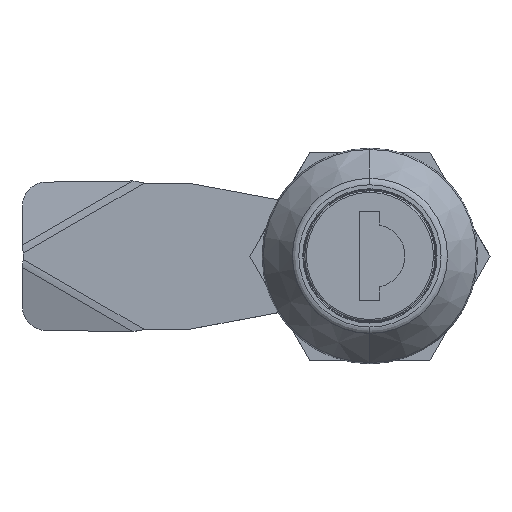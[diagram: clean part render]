
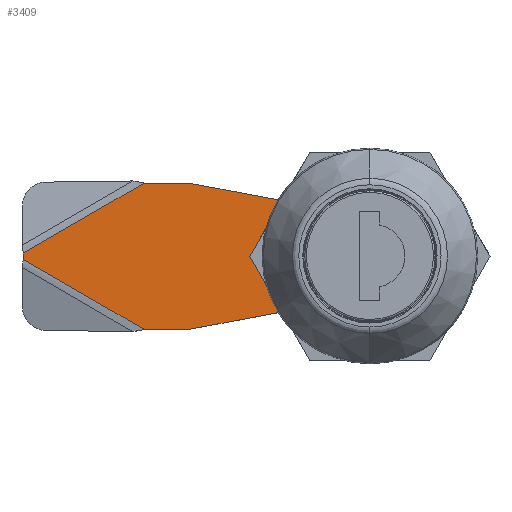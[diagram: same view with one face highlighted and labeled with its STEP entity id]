
A CAD part, top view. The second image highlights one B-rep face of the part: STEP entity #3409.
In plain terms, the highlighted planar face has unit normal (0, 0, 1).
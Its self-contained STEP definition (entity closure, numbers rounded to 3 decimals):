
#151 = VECTOR ( 'NONE', #7696, 1000. ) ;
#194 = PLANE ( 'NONE',  #350 ) ;
#231 = CARTESIAN_POINT ( 'NONE',  ( 45., 6.5, 3. ) ) ;
#245 = CARTESIAN_POINT ( 'NONE',  ( 10.463, 7.043, 3. ) ) ;
#334 = CARTESIAN_POINT ( 'NONE',  ( 29.295, -9.5, 3. ) ) ;
#337 = ORIENTED_EDGE ( 'NONE', *, *, #1008, .T. ) ;
#350 = AXIS2_PLACEMENT_3D ( 'NONE', #10477, #5385, #6217 ) ;
#415 = LINE ( 'NONE', #7658, #151 ) ;
#489 = DIRECTION ( 'NONE',  ( -1., 0., 0. ) ) ;
#607 = EDGE_CURVE ( 'NONE', #4716, #8677, #3569, .T. ) ;
#634 = VECTOR ( 'NONE', #4356, 1000. ) ;
#713 = VERTEX_POINT ( 'NONE', #4472 ) ;
#922 = VERTEX_POINT ( 'NONE', #3077 ) ;
#1008 = EDGE_CURVE ( 'NONE', #8980, #9704, #2882, .T. ) ;
#1198 = VECTOR ( 'NONE', #5580, 1000. ) ;
#1307 = DIRECTION ( 'NONE',  ( 0., 1., 0. ) ) ;
#1581 = EDGE_CURVE ( 'NONE', #4545, #9990, #9812, .T. ) ;
#1583 = VECTOR ( 'NONE', #8663, 1000. ) ;
#1848 = EDGE_CURVE ( 'NONE', #1874, #7074, #4034, .T. ) ;
#1874 = VERTEX_POINT ( 'NONE', #9725 ) ;
#1881 = CARTESIAN_POINT ( 'NONE',  ( 4.05, -4.05, 3. ) ) ;
#2112 = VECTOR ( 'NONE', #11130, 1000. ) ;
#2177 = CARTESIAN_POINT ( 'NONE',  ( 10.463, 7.043, 3. ) ) ;
#2210 = CARTESIAN_POINT ( 'NONE',  ( 42., -9.5, 3. ) ) ;
#2291 = EDGE_CURVE ( 'NONE', #9704, #6681, #7375, .T. ) ;
#2633 = CARTESIAN_POINT ( 'NONE',  ( 10., -4.05, 3. ) ) ;
#2656 = ORIENTED_EDGE ( 'NONE', *, *, #7238, .T. ) ;
#2882 = LINE ( 'NONE', #2177, #634 ) ;
#3077 = CARTESIAN_POINT ( 'NONE',  ( -4.05, -4.05, 3. ) ) ;
#3084 = FACE_BOUND ( 'NONE', #10496, .T. ) ;
#3121 = ORIENTED_EDGE ( 'NONE', *, *, #10284, .T. ) ;
#3192 = VECTOR ( 'NONE', #4097, 1000. ) ;
#3298 = ORIENTED_EDGE ( 'NONE', *, *, #4209, .T. ) ;
#3327 = VECTOR ( 'NONE', #7089, 1000. ) ;
#3338 = VECTOR ( 'NONE', #5683, 1000. ) ;
#3408 = VERTEX_POINT ( 'NONE', #1881 ) ;
#3409 = ADVANCED_FACE ( 'NONE', ( #7384, #3084 ), #194, .F. ) ;
#3502 = CIRCLE ( 'NONE', #10489, 8.5 ) ;
#3546 = EDGE_LOOP ( 'NONE', ( #4266, #9773, #2656, #3121, #337, #8648, #9035, #6449, #10858, #3298, #6810, #5745, #8434 ) ) ;
#3569 = CIRCLE ( 'NONE', #10878, 8.5 ) ;
#3584 = LINE ( 'NONE', #2633, #1583 ) ;
#3682 = CARTESIAN_POINT ( 'NONE',  ( 4.05, -9.5, 3. ) ) ;
#3764 = DIRECTION ( 'NONE',  ( 0., -1., 0. ) ) ;
#4019 = LINE ( 'NONE', #5811, #3192 ) ;
#4034 = LINE ( 'NONE', #2210, #1198 ) ;
#4097 = DIRECTION ( 'NONE',  ( -0.866, -0.5, 0. ) ) ;
#4101 = ORIENTED_EDGE ( 'NONE', *, *, #4682, .T. ) ;
#4164 = ORIENTED_EDGE ( 'NONE', *, *, #4918, .T. ) ;
#4209 = EDGE_CURVE ( 'NONE', #713, #8172, #7229, .T. ) ;
#4266 = ORIENTED_EDGE ( 'NONE', *, *, #10958, .F. ) ;
#4356 = DIRECTION ( 'NONE',  ( -0.983, -0.185, 0. ) ) ;
#4472 = CARTESIAN_POINT ( 'NONE',  ( 1.383, -8.387, 3. ) ) ;
#4484 = CARTESIAN_POINT ( 'NONE',  ( 9.593, -7.033, 3. ) ) ;
#4545 = VERTEX_POINT ( 'NONE', #8503 ) ;
#4682 = EDGE_CURVE ( 'NONE', #922, #6819, #9593, .T. ) ;
#4684 = VECTOR ( 'NONE', #6887, 1000. ) ;
#4716 = VERTEX_POINT ( 'NONE', #9946 ) ;
#4771 = VECTOR ( 'NONE', #9727, 1000. ) ;
#4791 = CARTESIAN_POINT ( 'NONE',  ( -4.05, 4.05, 3. ) ) ;
#4918 = EDGE_CURVE ( 'NONE', #5300, #3408, #9716, .T. ) ;
#5009 = DIRECTION ( 'NONE',  ( 0., 0., 1. ) ) ;
#5099 = VECTOR ( 'NONE', #9993, 1000. ) ;
#5300 = VERTEX_POINT ( 'NONE', #8689 ) ;
#5385 = DIRECTION ( 'NONE',  ( 0., 0., -1. ) ) ;
#5542 = CIRCLE ( 'NONE', #7521, 2.5 ) ;
#5580 = DIRECTION ( 'NONE',  ( 1., 0., 0. ) ) ;
#5621 = DIRECTION ( 'NONE',  ( 0., 0., -1. ) ) ;
#5630 = LINE ( 'NONE', #9156, #3338 ) ;
#5683 = DIRECTION ( 'NONE',  ( -1., 0., 0. ) ) ;
#5745 = ORIENTED_EDGE ( 'NONE', *, *, #11028, .T. ) ;
#5811 = CARTESIAN_POINT ( 'NONE',  ( 14.824, -17.855, 3. ) ) ;
#6155 = LINE ( 'NONE', #6225, #3327 ) ;
#6217 = DIRECTION ( 'NONE',  ( -1., 0., 0. ) ) ;
#6225 = CARTESIAN_POINT ( 'NONE',  ( 10., 4.05, 3. ) ) ;
#6446 = AXIS2_PLACEMENT_3D ( 'NONE', #10978, #10941, #10848 ) ;
#6449 = ORIENTED_EDGE ( 'NONE', *, *, #607, .T. ) ;
#6525 = CARTESIAN_POINT ( 'NONE',  ( 23.051, 13.105, 3. ) ) ;
#6681 = VERTEX_POINT ( 'NONE', #7722 ) ;
#6810 = ORIENTED_EDGE ( 'NONE', *, *, #7780, .T. ) ;
#6819 = VERTEX_POINT ( 'NONE', #4791 ) ;
#6879 = ORIENTED_EDGE ( 'NONE', *, *, #11110, .T. ) ;
#6887 = DIRECTION ( 'NONE',  ( 0.987, 0.163, 0. ) ) ;
#7041 = EDGE_CURVE ( 'NONE', #6681, #4716, #415, .T. ) ;
#7074 = VERTEX_POINT ( 'NONE', #334 ) ;
#7089 = DIRECTION ( 'NONE',  ( 1., 0., 0. ) ) ;
#7229 = LINE ( 'NONE', #8530, #4684 ) ;
#7238 = EDGE_CURVE ( 'NONE', #9990, #10066, #9668, .T. ) ;
#7375 = CIRCLE ( 'NONE', #6446, 2.5 ) ;
#7384 = FACE_OUTER_BOUND ( 'NONE', #3546, .T. ) ;
#7440 = VECTOR ( 'NONE', #3764, 1000. ) ;
#7521 = AXIS2_PLACEMENT_3D ( 'NONE', #10792, #5621, #489 ) ;
#7527 = VECTOR ( 'NONE', #1307, 1000. ) ;
#7658 = CARTESIAN_POINT ( 'NONE',  ( 9.593, 7.033, 3. ) ) ;
#7696 = DIRECTION ( 'NONE',  ( -0.987, 0.163, 0. ) ) ;
#7722 = CARTESIAN_POINT ( 'NONE',  ( 9.593, 7.033, 3. ) ) ;
#7780 = EDGE_CURVE ( 'NONE', #8172, #10230, #5542, .T. ) ;
#8172 = VERTEX_POINT ( 'NONE', #4484 ) ;
#8434 = ORIENTED_EDGE ( 'NONE', *, *, #1848, .T. ) ;
#8457 = CARTESIAN_POINT ( 'NONE',  ( 29.295, 9.5, 3. ) ) ;
#8503 = CARTESIAN_POINT ( 'NONE',  ( 45., -0.433, 3. ) ) ;
#8530 = CARTESIAN_POINT ( 'NONE',  ( 9.593, -7.033, 3. ) ) ;
#8648 = ORIENTED_EDGE ( 'NONE', *, *, #2291, .T. ) ;
#8663 = DIRECTION ( 'NONE',  ( -1., 0., 0. ) ) ;
#8673 = DIRECTION ( 'NONE',  ( 0., 0., 1. ) ) ;
#8677 = VERTEX_POINT ( 'NONE', #8801 ) ;
#8689 = CARTESIAN_POINT ( 'NONE',  ( 4.05, 4.05, 3. ) ) ;
#8764 = DIRECTION ( 'NONE',  ( 1., 0., 0. ) ) ;
#8796 = CARTESIAN_POINT ( 'NONE',  ( 0., 0., 3. ) ) ;
#8801 = CARTESIAN_POINT ( 'NONE',  ( -8.5, 0., 3. ) ) ;
#8928 = EDGE_CURVE ( 'NONE', #8677, #713, #3502, .T. ) ;
#8980 = VERTEX_POINT ( 'NONE', #11107 ) ;
#8988 = LINE ( 'NONE', #9380, #2112 ) ;
#9035 = ORIENTED_EDGE ( 'NONE', *, *, #7041, .T. ) ;
#9156 = CARTESIAN_POINT ( 'NONE',  ( 42., 9.5, 3. ) ) ;
#9160 = CARTESIAN_POINT ( 'NONE',  ( 45., 0.433, 3. ) ) ;
#9366 = CARTESIAN_POINT ( 'NONE',  ( -4.05, -9.5, 3. ) ) ;
#9380 = CARTESIAN_POINT ( 'NONE',  ( 10.463, -7.043, 3. ) ) ;
#9593 = LINE ( 'NONE', #9366, #4771 ) ;
#9668 = LINE ( 'NONE', #6525, #5099 ) ;
#9704 = VERTEX_POINT ( 'NONE', #245 ) ;
#9716 = LINE ( 'NONE', #3682, #7440 ) ;
#9725 = CARTESIAN_POINT ( 'NONE',  ( 23.5, -9.5, 3. ) ) ;
#9727 = DIRECTION ( 'NONE',  ( 0., 1., 0. ) ) ;
#9773 = ORIENTED_EDGE ( 'NONE', *, *, #1581, .T. ) ;
#9812 = LINE ( 'NONE', #231, #7527 ) ;
#9946 = CARTESIAN_POINT ( 'NONE',  ( 1.383, 8.387, 3. ) ) ;
#9990 = VERTEX_POINT ( 'NONE', #9160 ) ;
#9993 = DIRECTION ( 'NONE',  ( -0.866, 0.5, 0. ) ) ;
#10066 = VERTEX_POINT ( 'NONE', #8457 ) ;
#10157 = CARTESIAN_POINT ( 'NONE',  ( 0., 0., 3. ) ) ;
#10230 = VERTEX_POINT ( 'NONE', #10722 ) ;
#10284 = EDGE_CURVE ( 'NONE', #10066, #8980, #5630, .T. ) ;
#10477 = CARTESIAN_POINT ( 'NONE',  ( 10., -9.5, 3. ) ) ;
#10489 = AXIS2_PLACEMENT_3D ( 'NONE', #10157, #5009, #11033 ) ;
#10496 = EDGE_LOOP ( 'NONE', ( #4164, #6879, #4101, #10961 ) ) ;
#10585 = EDGE_CURVE ( 'NONE', #6819, #5300, #6155, .T. ) ;
#10722 = CARTESIAN_POINT ( 'NONE',  ( 10.463, -7.043, 3. ) ) ;
#10792 = CARTESIAN_POINT ( 'NONE',  ( 10., -9.5, 3. ) ) ;
#10848 = DIRECTION ( 'NONE',  ( 1., 0., 0. ) ) ;
#10858 = ORIENTED_EDGE ( 'NONE', *, *, #8928, .T. ) ;
#10878 = AXIS2_PLACEMENT_3D ( 'NONE', #8796, #8673, #8764 ) ;
#10941 = DIRECTION ( 'NONE',  ( 0., 0., -1. ) ) ;
#10958 = EDGE_CURVE ( 'NONE', #4545, #7074, #4019, .T. ) ;
#10961 = ORIENTED_EDGE ( 'NONE', *, *, #10585, .T. ) ;
#10978 = CARTESIAN_POINT ( 'NONE',  ( 10., 9.5, 3. ) ) ;
#11028 = EDGE_CURVE ( 'NONE', #10230, #1874, #8988, .T. ) ;
#11033 = DIRECTION ( 'NONE',  ( 1., 0., 0. ) ) ;
#11107 = CARTESIAN_POINT ( 'NONE',  ( 23.5, 9.5, 3. ) ) ;
#11110 = EDGE_CURVE ( 'NONE', #3408, #922, #3584, .T. ) ;
#11130 = DIRECTION ( 'NONE',  ( 0.983, -0.185, 0. ) ) ;
